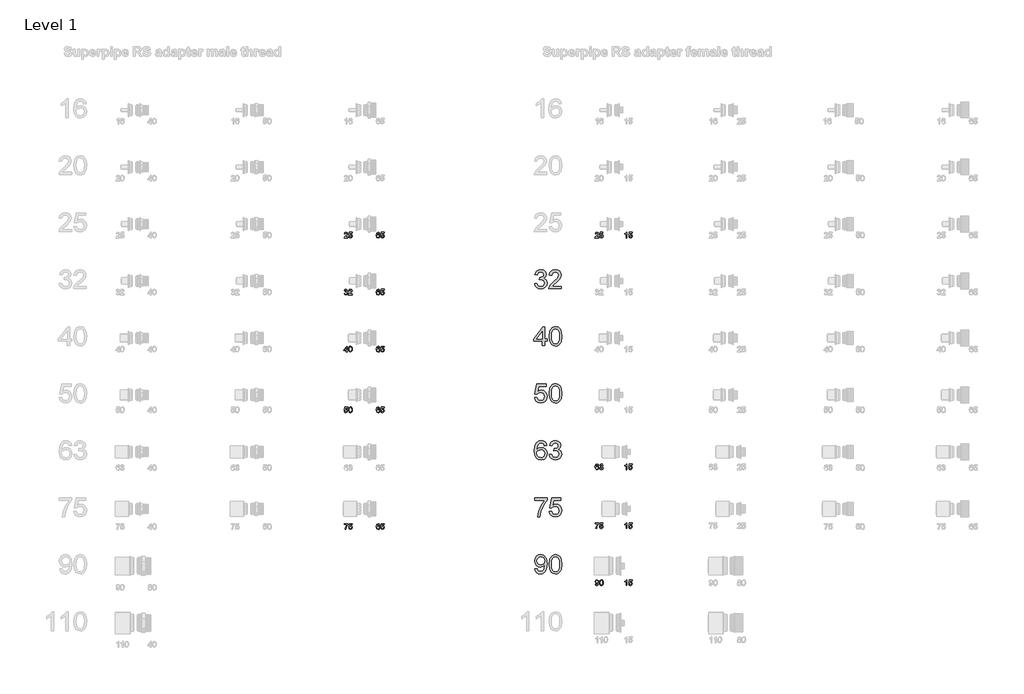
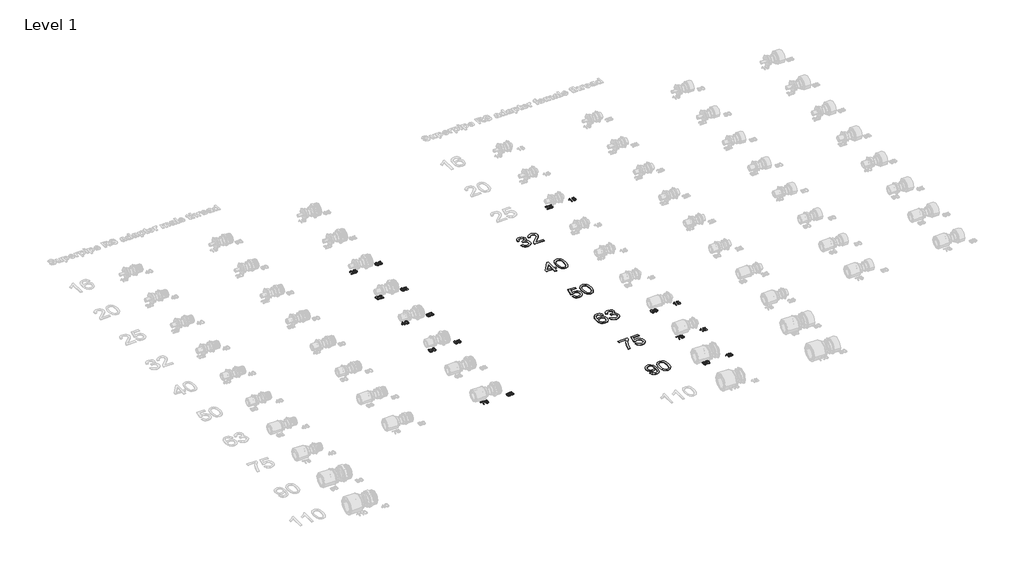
# One storey, part 35 of 58: 24 proxies.
"""IFC4 building model written with IfcOpenShell, lengths in millimetres."""

from ifc_helpers import new_model, si_unit, frame, origin, place, context, project, spatial, polyline, outline, extrude, element, save

model = new_model("IFC4")

# Units and contexts
model_context = context("Model", 3, world=origin())
ifc_project = project(units=[si_unit("LENGTHUNIT", "METRE", prefix="MILLI")], contexts=[model_context])

# Site, building, storey
site = spatial("IfcSite", under=ifc_project)
building = spatial("IfcBuilding", under=site)
storey = spatial("IfcBuildingStorey", under=building, Name="Level 1", Elevation=27.3876384)

# Proxies
placement = place(None, origin())
element("IfcBuildingElementProxy", 1, Name="100mm Arial", ObjectType="100mm Arial", at=placement, inside=storey, context=model_context, shape_type="SweptSolid", body=[
    extrude(outline(polyline([(31284.4814773, 17732.8797554), (31297.0385161, 17734.4493852), (31303.9669603, 17721.2301588), (31316.9286693, 17717.1834569), (31325.537108, 17718.5752771), (31332.1835093, 17722.7507378), (31337.8488921, 17736.5340498), (31332.2325603, 17749.5202843), (31317.9587389, 17754.6583695), (31309.1540964, 17753.2849434), (31310.552048, 17765.8419821), (31312.5631363, 17765.6948293), (31326.8124322, 17769.3000729), (31331.55811, 17773.8740723), (31333.1400025, 17780.3855837), (31328.5537403, 17790.2080329), (31316.7324655, 17794.0953193), (31304.764038, 17790.1712447), (31298.6081459, 17778.3990209), (31286.0511071, 17779.9686507), (31289.7483212, 17791.2442339), (31296.3272775, 17799.6626002), (31305.3281237, 17804.9049186), (31316.2910072, 17806.6523581), (31331.4354826, 17803.2065301), (31342.0304841, 17793.788751), (31345.6970413, 17781.1213477), (31342.2144251, 17769.5453275), (31331.9137292, 17761.2311944), (31345.5989394, 17752.6472812), (31350.4059308, 17736.3133206), (31348.0024351, 17724.0751129), (31340.791948, 17713.8479935), (31329.9087723, 17706.931812), (31316.4872109, 17704.6264181), (31304.347105, 17706.5945868), (31294.4633421, 17712.4990928), (31287.5900802, 17721.5305958), (31284.4814773, 17732.8797554)])), frame((0.0, 0.0, 27.3876384), z_axis=(0.0, 0.0, 1.0), x_axis=(1.0, 0.0, 0.0)), (0.0, 0.0, 1.0), 2.0),
    extrude(outline(polyline([(31425.7481635, 17718.7530867), (31425.7481635, 17706.196048), (31359.8237099, 17706.196048), (31361.1726106, 17714.8535376), (31368.8000306, 17728.1831285), (31384.5208545, 17742.7389928), (31406.2013668, 17763.6592156), (31411.6214948, 17777.8839861), (31406.5079351, 17789.3986925), (31393.1538187, 17794.0953193), (31379.2356165, 17789.5090571), (31373.9503785, 17776.829391), (31361.3933398, 17778.3990209), (31364.4375633, 17790.5452581), (31371.0195853, 17799.4173455), (31380.7960493, 17804.843605), (31393.4235988, 17806.6523581), (31406.1431188, 17804.6412699), (31415.9011887, 17798.6080052), (31422.1091974, 17789.5948963), (31424.1785336, 17778.6442756), (31421.9467162, 17766.7371616), (31414.5277626, 17754.4253775), (31396.538333, 17737.2207629), (31382.0928334, 17725.1419707), (31376.4274506, 17718.7530867), (31425.7481635, 17718.7530867)])), frame((0.0, 0.0, 27.3876384), z_axis=(0.0, 0.0, 1.0), x_axis=(1.0, 0.0, 0.0)), (0.0, 0.0, 1.0), 2.0),
])
element("IfcBuildingElementProxy", 2, Name="100mm Arial", ObjectType="100mm Arial", at=placement, inside=storey, context=model_context, shape_type="SweptSolid", body=[
    extrude(outline(polyline([(31325.2918533, 17406.196048), (31325.2918533, 17429.7404957), (31279.7725878, 17429.7404957), (31279.7725878, 17442.2975344), (31328.431113, 17505.0827283), (31337.8488921, 17505.0827283), (31337.8488921, 17442.2975344), (31350.4059308, 17442.2975344), (31350.4059308, 17429.7404957), (31337.8488921, 17429.7404957), (31337.8488921, 17406.196048), (31325.2918533, 17406.196048)]), holes=[polyline([(31325.2918533, 17442.2975344), (31325.2918533, 17481.0968222), (31295.2236316, 17442.2975344), (31325.2918533, 17442.2975344)])]), frame((0.0, 0.0, 27.3876384), z_axis=(0.0, 0.0, 1.0), x_axis=(1.0, 0.0, 0.0)), (0.0, 0.0, 1.0), 2.0),
    extrude(outline(polyline([(31361.3933398, 17455.6148627), (31365.0844224, 17484.5181247), (31376.0473059, 17501.1831791), (31394.3555665, 17506.6523581), (31409.0217954, 17503.4149966), (31419.150813, 17494.0830566), (31425.0369249, 17479.220624), (31427.3177933, 17455.6148627), (31423.6634988, 17426.8342279), (31412.7374036, 17410.1323853), (31404.5060439, 17406.0029099), (31394.3555665, 17404.6264181), (31381.3080184, 17407.0176511), (31371.39973, 17414.19135), (31363.8949373, 17431.1813668), (31361.3933398, 17455.6148627)]), holes=[polyline([(31373.9503785, 17455.6393881), (31375.4219065, 17435.8871907), (31379.8364905, 17424.4552577), (31386.4093154, 17419.0014071), (31394.3555665, 17417.1834569), (31402.3018176, 17419.0075385), (31408.8746426, 17424.4797831), (31413.2892265, 17435.9178475), (31414.7607545, 17455.6393881), (31413.3382775, 17474.9470615), (31409.0708463, 17486.4678993), (31402.5102841, 17492.1884643), (31394.2084137, 17494.0953193), (31386.3480018, 17492.4153249), (31380.0326942, 17487.3753416), (31375.4709574, 17475.1371339), (31373.9503785, 17455.6393881)])]), frame((0.0, 0.0, 27.3876384), z_axis=(0.0, 0.0, 1.0), x_axis=(1.0, 0.0, 0.0)), (0.0, 0.0, 1.0), 2.0),
])
element("IfcBuildingElementProxy", 3, Name="100mm Arial", ObjectType="100mm Arial", at=placement, inside=storey, context=model_context, shape_type="SweptSolid", body=[
    extrude(outline(polyline([(31284.4814773, 17132.8797554), (31297.0385161, 17134.4493852), (31303.3660864, 17121.5122017), (31316.4872109, 17117.1834569), (31325.488057, 17118.6887074), (31332.2325603, 17123.2044589), (31336.4448091, 17130.2095452), (31337.8488921, 17139.1828002), (31332.5881795, 17154.0942837), (31325.981632, 17158.196168), (31316.6834146, 17159.5634627), (31305.6592175, 17157.3806962), (31298.6081459, 17151.7153135), (31286.0511071, 17153.2849434), (31297.0385161, 17205.0827283), (31345.6970413, 17205.0827283), (31345.6970413, 17192.5256895), (31307.1920591, 17192.5256895), (31301.820982, 17164.8609635), (31310.7911713, 17170.305617), (31320.1905563, 17172.1205015), (31331.9229263, 17169.87029), (31341.6626021, 17163.1196554), (31348.2200987, 17152.8312222), (31350.4059308, 17139.9676151), (31348.4377622, 17127.4105764), (31342.5332561, 17116.6684221), (31331.2270162, 17107.6369191), (31316.43816, 17104.6264181), (31304.1049161, 17106.5608643), (31294.2794011, 17112.3642028), (31287.5440949, 17121.3619832), (31284.4814773, 17132.8797554)])), frame((0.0, 0.0, 27.3876384), z_axis=(0.0, 0.0, 1.0), x_axis=(1.0, 0.0, 0.0)), (0.0, 0.0, 1.0), 2.0),
    extrude(outline(polyline([(31361.3933398, 17155.6148627), (31365.0844224, 17184.5181247), (31376.0473059, 17201.1831791), (31394.3555665, 17206.6523581), (31409.0217954, 17203.4149966), (31419.150813, 17194.0830566), (31425.0369249, 17179.220624), (31427.3177933, 17155.6148627), (31423.6634988, 17126.8342279), (31412.7374036, 17110.1323853), (31404.5060439, 17106.0029099), (31394.3555665, 17104.6264181), (31381.3080184, 17107.0176511), (31371.39973, 17114.19135), (31363.8949373, 17131.1813668), (31361.3933398, 17155.6148627)]), holes=[polyline([(31373.9503785, 17155.6393881), (31375.4219065, 17135.8871907), (31379.8364905, 17124.4552577), (31386.4093154, 17119.0014071), (31394.3555665, 17117.1834569), (31402.3018176, 17119.0075385), (31408.8746426, 17124.4797831), (31413.2892265, 17135.9178475), (31414.7607545, 17155.6393881), (31413.3382775, 17174.9470615), (31409.0708463, 17186.4678993), (31402.5102841, 17192.1884643), (31394.2084137, 17194.0953193), (31386.3480018, 17192.4153249), (31380.0326942, 17187.3753416), (31375.4709574, 17175.1371339), (31373.9503785, 17155.6393881)])]), frame((0.0, 0.0, 27.3876384), z_axis=(0.0, 0.0, 1.0), x_axis=(1.0, 0.0, 0.0)), (0.0, 0.0, 1.0), 2.0),
])
element("IfcBuildingElementProxy", 4, Name="100mm Arial", ObjectType="100mm Arial", at=placement, inside=storey, context=model_context, shape_type="SweptSolid", body=[
    extrude(outline(polyline([(31348.836301, 16879.9686507), (31336.2792622, 16878.3990209), (31331.5213218, 16888.871395), (31318.9397575, 16894.0953193), (31307.6089921, 16891.0541615), (31299.0373416, 16879.6375569), (31295.4688862, 16857.2580689), (31306.5421343, 16867.2767219), (31320.2641327, 16870.5508717), (31331.8646783, 16868.3129229), (31341.6012884, 16861.5990764), (31348.2047702, 16851.3413001), (31350.4059308, 16838.4715617), (31346.261127, 16821.1443197), (31334.8567852, 16808.8815865), (31318.4001973, 16804.6264181), (31304.153967, 16807.4468468), (31292.8078731, 16815.9081326), (31285.3858539, 16830.8441416), (31282.9118475, 16853.0887396), (31285.6586997, 16878.0985839), (31293.8992564, 16895.1989653), (31305.1503141, 16903.7890099), (31319.7245724, 16906.6523581), (31330.7426382, 16904.8803932), (31339.5656747, 16899.5644983), (31345.7460922, 16891.1216066), (31348.836301, 16879.9686507)]), holes=[polyline([(31295.4688862, 16838.6677654), (31298.375154, 16827.7907211), (31306.1006759, 16819.8935209), (31317.4191786, 16817.1834569), (31325.7057205, 16818.5875398), (31332.2202975, 16822.7997887), (31336.4417434, 16829.4216646), (31337.8488921, 16838.0546288), (31336.4601375, 16846.3411707), (31332.2938739, 16852.659544), (31325.6689323, 16856.6602607), (31316.9041438, 16857.9938329), (31301.7106174, 16852.659544), (31297.029319, 16846.4944549), (31295.4688862, 16838.6677654)])]), frame((0.0, 0.0, 27.3876384), z_axis=(0.0, 0.0, 1.0), x_axis=(1.0, 0.0, 0.0)), (0.0, 0.0, 1.0), 2.0),
    extrude(outline(polyline([(31361.3933398, 16832.8797554), (31373.9503785, 16834.4493852), (31380.8788228, 16821.2301588), (31393.8405317, 16817.1834569), (31402.4489704, 16818.5752771), (31409.0953718, 16822.7507378), (31414.7607545, 16836.5340498), (31409.1444227, 16849.5202843), (31394.8706013, 16854.6583695), (31386.0659589, 16853.2849434), (31387.4639105, 16865.8419821), (31389.4749987, 16865.6948293), (31403.7242947, 16869.3000729), (31408.4699724, 16873.8740723), (31410.051865, 16880.3855837), (31405.4656028, 16890.2080329), (31393.644328, 16894.0953193), (31381.6759004, 16890.1712447), (31375.5200084, 16878.3990209), (31362.9629696, 16879.9686507), (31366.6601837, 16891.2442339), (31373.23914, 16899.6626002), (31382.2399862, 16904.9049186), (31393.2028696, 16906.6523581), (31408.3473451, 16903.2065301), (31418.9423465, 16893.788751), (31422.6089038, 16881.1213477), (31419.1262875, 16869.5453275), (31408.8255917, 16861.2311944), (31422.5108019, 16852.6472812), (31427.3177933, 16836.3133206), (31424.9142976, 16824.0751129), (31417.7038105, 16813.8479935), (31406.8206348, 16806.931812), (31393.3990733, 16804.6264181), (31381.2589675, 16806.5945868), (31371.3752046, 16812.4990928), (31364.5019426, 16821.5305958), (31361.3933398, 16832.8797554)])), frame((0.0, 0.0, 27.3876384), z_axis=(0.0, 0.0, 1.0), x_axis=(1.0, 0.0, 0.0)), (0.0, 0.0, 1.0), 2.0),
])
element("IfcBuildingElementProxy", 5, Name="100mm Arial", ObjectType="100mm Arial", at=placement, inside=storey, context=model_context, shape_type="SweptSolid", body=[
    extrude(outline(polyline([(31284.4814773, 16592.5256895), (31284.4814773, 16605.0827283), (31350.4059308, 16605.0827283), (31350.4059308, 16594.9291852), (31331.7052628, 16567.914384), (31317.3946531, 16533.492892), (31312.7348145, 16506.196048), (31300.1777758, 16506.196048), (31305.1687082, 16534.5229616), (31318.8661811, 16566.5409579), (31337.8488921, 16592.5256895), (31284.4814773, 16592.5256895)])), frame((0.0, 0.0, 27.3876384), z_axis=(0.0, 0.0, 1.0), x_axis=(1.0, 0.0, 0.0)), (0.0, 0.0, 1.0), 2.0),
    extrude(outline(polyline([(31361.3933398, 16532.8797554), (31373.9503785, 16534.4493852), (31380.2779488, 16521.5122017), (31393.3990733, 16517.1834569), (31402.3999195, 16518.6887074), (31409.1444227, 16523.2044589), (31413.3566716, 16530.2095452), (31414.7607545, 16539.1828002), (31409.500042, 16554.0942837), (31402.8934945, 16558.196168), (31393.5952771, 16559.5634627), (31382.57108, 16557.3806962), (31375.5200084, 16551.7153135), (31362.9629696, 16553.2849434), (31373.9503785, 16605.0827283), (31422.6089038, 16605.0827283), (31422.6089038, 16592.5256895), (31384.1039216, 16592.5256895), (31378.7328445, 16564.8609635), (31387.7030338, 16570.305617), (31397.1024188, 16572.1205015), (31408.8347887, 16569.87029), (31418.5744645, 16563.1196554), (31425.1319611, 16552.8312222), (31427.3177933, 16539.9676151), (31425.3496246, 16527.4105764), (31419.4451186, 16516.6684221), (31408.1388786, 16507.6369191), (31393.3500224, 16504.6264181), (31381.0167785, 16506.5608643), (31371.1912636, 16512.3642028), (31364.4559574, 16521.3619832), (31361.3933398, 16532.8797554)])), frame((0.0, 0.0, 27.3876384), z_axis=(0.0, 0.0, 1.0), x_axis=(1.0, 0.0, 0.0)), (0.0, 0.0, 1.0), 2.0),
])
element("IfcBuildingElementProxy", 6, Name="100mm Arial", ObjectType="100mm Arial", at=placement, inside=storey, context=model_context, shape_type="SweptSolid", body=[
    extrude(outline(polyline([(31286.0511071, 16231.3101255), (31298.6081459, 16232.8797554), (31304.2490032, 16220.899065), (31314.9421065, 16217.1834569), (31325.1079123, 16219.5746899), (31331.9995683, 16225.9635738), (31336.107584, 16236.8774064), (31337.9224685, 16251.4455334), (31337.8488921, 16253.89808), (31327.8057136, 16244.3821991), (31314.0346642, 16240.7279046), (31302.5843371, 16242.959722), (31293.0531278, 16249.6551743), (31286.6243899, 16259.9987898), (31284.4814773, 16273.1750966), (31286.7286232, 16286.7867304), (31293.4700607, 16297.4553082), (31303.5960126, 16304.3530956), (31315.9967016, 16306.6523581), (31333.8880293, 16301.4039083), (31346.1998134, 16286.4433738), (31350.4059308, 16258.3371894), (31346.2120761, 16227.839772), (31340.9973488, 16217.8487102), (31333.7408765, 16210.561581), (31324.7553587, 16206.1102088), (31314.3534953, 16204.6264181), (31303.6174724, 16206.3769233), (31295.0519533, 16211.6284388), (31289.0616081, 16220.0498708), (31286.0511071, 16231.3101255)]), holes=[polyline([(31337.8488921, 16273.4694022), (31336.4938601, 16281.979739), (31332.428764, 16288.5280385), (31326.1195878, 16292.7034991), (31318.0323153, 16294.0953193), (31309.6446058, 16292.5962002), (31302.924628, 16288.0988428), (31298.5100441, 16281.2163838), (31297.0385161, 16272.5619599), (31298.4303363, 16264.8027155), (31302.6057969, 16258.6437577), (31309.1602278, 16254.624647), (31317.6889587, 16253.2849434), (31332.1712466, 16258.6437577), (31336.4294807, 16265.029576), (31337.8488921, 16273.4694022)])]), frame((0.0, 0.0, 27.3876384), z_axis=(0.0, 0.0, 1.0), x_axis=(1.0, 0.0, 0.0)), (0.0, 0.0, 1.0), 2.0),
    extrude(outline(polyline([(31361.3933398, 16255.6148627), (31365.0844224, 16284.5181247), (31376.0473059, 16301.1831791), (31394.3555665, 16306.6523581), (31409.0217954, 16303.4149966), (31419.150813, 16294.0830566), (31425.0369249, 16279.220624), (31427.3177933, 16255.6148627), (31423.6634988, 16226.8342279), (31412.7374036, 16210.1323853), (31404.5060439, 16206.0029099), (31394.3555665, 16204.6264181), (31381.3080184, 16207.0176511), (31371.39973, 16214.19135), (31363.8949373, 16231.1813668), (31361.3933398, 16255.6148627)]), holes=[polyline([(31373.9503785, 16255.6393881), (31375.4219065, 16235.8871907), (31379.8364905, 16224.4552577), (31386.4093154, 16219.0014071), (31394.3555665, 16217.1834569), (31402.3018176, 16219.0075385), (31408.8746426, 16224.4797831), (31413.2892265, 16235.9178475), (31414.7607545, 16255.6393881), (31413.3382775, 16274.9470615), (31409.0708463, 16286.4678993), (31402.5102841, 16292.1884643), (31394.2084137, 16294.0953193), (31386.3480018, 16292.4153249), (31380.0326942, 16287.3753416), (31375.4709574, 16275.1371339), (31373.9503785, 16255.6393881)])]), frame((0.0, 0.0, 27.3876384), z_axis=(0.0, 0.0, 1.0), x_axis=(1.0, 0.0, 0.0)), (0.0, 0.0, 1.0), 2.0),
])
element("IfcBuildingElementProxy", 7, Name="30mm Arial", ObjectType="30mm Arial", at=placement, inside=storey, context=model_context, shape_type="SweptSolid", body=[
    extrude(outline(polyline([(30301.8418771, 17977.3459656), (30301.8418771, 17973.5788539), (30282.0645411, 17973.5788539), (30282.4692113, 17976.1761008), (30284.7574373, 17980.1749781), (30289.4736845, 17984.5417374), (30295.9778381, 17990.8178042), (30297.6038765, 17995.0852354), (30296.0698086, 17998.5396473), (30292.0635737, 17999.9486353), (30287.8881131, 17998.5727567), (30286.3025417, 17994.7688569), (30282.53543, 17995.2397458), (30285.4233037, 18001.5452432), (30292.1445077, 18003.715747), (30298.8877847, 18001.3024411), (30301.3709882, 17995.3133222), (30300.7014429, 17991.741188), (30298.4757569, 17988.0476528), (30293.078928, 17982.8862684), (30288.7452781, 17979.2626308), (30287.0456633, 17977.3459656), (30301.8418771, 17977.3459656)])), frame((0.0, 0.0, 27.3876384), z_axis=(0.0, 0.0, 1.0), x_axis=(1.0, 0.0, 0.0)), (0.0, 0.0, 1.0), 2.0),
    extrude(outline(polyline([(30305.6089888, 17981.5839661), (30309.3761004, 17982.0548551), (30311.2743715, 17978.1737001), (30315.2107088, 17976.8750766), (30319.9343137, 17978.6813772), (30321.6192132, 17983.4748796), (30320.0409994, 17987.9483247), (30315.26957, 17989.5890784), (30311.9623108, 17988.9342484), (30309.8469893, 17987.2346336), (30306.0798777, 17987.7055225), (30309.3761004, 18003.244858), (30323.973658, 18003.244858), (30323.973658, 17999.4777464), (30312.4221633, 17999.4777464), (30310.8108402, 17991.1783286), (30316.3217125, 17993.35619), (30322.7633262, 17990.6559361), (30325.3863248, 17983.7103241), (30323.0245224, 17976.7205662), (30315.1959936, 17973.107965), (30308.5483659, 17975.4293004), (30305.6089888, 17981.5839661)])), frame((0.0, 0.0, 27.3876384), z_axis=(0.0, 0.0, 1.0), x_axis=(1.0, 0.0, 0.0)), (0.0, 0.0, 1.0), 2.0),
])
element("IfcBuildingElementProxy", 8, Name="30mm Arial", ObjectType="30mm Arial", at=placement, inside=storey, context=model_context, shape_type="SweptSolid", body=[
    extrude(outline(polyline([(30470.5918771, 17995.7106348), (30466.8247655, 17995.2397458), (30465.3973834, 17998.381458), (30461.6229141, 17999.9486353), (30458.2236845, 17999.036288), (30455.6521893, 17995.6113066), (30454.5816527, 17988.8974602), (30457.9036271, 17991.9030561), (30462.0202266, 17992.885301), (30468.4213734, 17990.1997625), (30471.0627661, 17983.261508), (30469.8193249, 17978.0633355), (30466.3980224, 17974.3845155), (30461.461046, 17973.107965), (30453.7833488, 17976.4924793), (30450.8145411, 17987.6466614), (30454.1107637, 18000.2797291), (30461.8583586, 18003.715747), (30467.8106892, 18001.589389), (30470.5918771, 17995.7106348)]), holes=[polyline([(30454.5816527, 17983.3203692), (30455.453533, 17980.0572559), (30457.7711896, 17977.6880958), (30461.1667404, 17976.8750766), (30465.6070761, 17978.5599761), (30467.2956545, 17983.1364282), (30465.629149, 17987.5179027), (30461.01223, 17989.1181894), (30456.4541721, 17987.5179027), (30454.5816527, 17983.3203692)])]), frame((0.0, 0.0, 27.3876384), z_axis=(0.0, 0.0, 1.0), x_axis=(1.0, 0.0, 0.0)), (0.0, 0.0, 1.0), 2.0),
    extrude(outline(polyline([(30474.3589888, 17981.5839661), (30478.1261004, 17982.0548551), (30480.0243715, 17978.1737001), (30483.9607088, 17976.8750766), (30488.6843137, 17978.6813772), (30490.3692132, 17983.4748796), (30488.7909994, 17987.9483247), (30484.01957, 17989.5890784), (30480.7123108, 17988.9342484), (30478.5969893, 17987.2346336), (30474.8298777, 17987.7055225), (30478.1261004, 18003.244858), (30492.723658, 18003.244858), (30492.723658, 17999.4777464), (30481.1721633, 17999.4777464), (30479.5608402, 17991.1783286), (30485.0717125, 17993.35619), (30491.5133262, 17990.6559361), (30494.1363248, 17983.7103241), (30491.7745224, 17976.7205662), (30483.9459936, 17973.107965), (30477.2983659, 17975.4293004), (30474.3589888, 17981.5839661)])), frame((0.0, 0.0, 27.3876384), z_axis=(0.0, 0.0, 1.0), x_axis=(1.0, 0.0, 0.0)), (0.0, 0.0, 1.0), 2.0),
])
element("IfcBuildingElementProxy", 9, Name="30mm Arial", ObjectType="30mm Arial", at=placement, inside=storey, context=model_context, shape_type="SweptSolid", body=[
    extrude(outline(polyline([(30282.53543, 17681.5839661), (30286.3025417, 17682.0548551), (30288.3810749, 17678.0890872), (30292.2695876, 17676.8750766), (30296.8460396, 17678.5452609), (30298.5456545, 17682.6802545), (30296.8607549, 17686.5761248), (30292.5786085, 17688.1175504), (30289.9372158, 17687.7055225), (30290.3566012, 17691.4726342), (30295.2347165, 17692.5100614), (30297.1329876, 17695.8357146), (30295.7571089, 17698.7824494), (30292.2107265, 17699.9486353), (30288.6201982, 17698.771413), (30286.7734306, 17695.2397458), (30283.006319, 17695.7106348), (30286.0891701, 17701.6188196), (30292.078289, 17703.715747), (30296.6216316, 17702.6819986), (30299.8001321, 17699.8566648), (30300.9000992, 17696.0564438), (30299.8553144, 17692.5836378), (30296.7651056, 17690.0893979), (30300.8706687, 17687.5142239), (30302.3127661, 17682.6140357), (30299.4285712, 17675.8744376), (30292.1371501, 17673.107965), (30285.5299895, 17675.4697674), (30282.53543, 17681.5839661)])), frame((0.0, 0.0, 27.3876384), z_axis=(0.0, 0.0, 1.0), x_axis=(1.0, 0.0, 0.0)), (0.0, 0.0, 1.0), 2.0),
    extrude(outline(polyline([(30324.9154359, 17677.3459656), (30324.9154359, 17673.5788539), (30305.1380998, 17673.5788539), (30305.54277, 17676.1761008), (30307.830996, 17680.1749781), (30312.5472432, 17684.5417374), (30319.0513969, 17690.8178042), (30320.6774353, 17695.0852354), (30319.1433674, 17698.5396473), (30315.1371324, 17699.9486353), (30310.9616718, 17698.5727567), (30309.3761004, 17694.7688569), (30305.6089888, 17695.2397458), (30308.4968624, 17701.5452432), (30315.2180665, 17703.715747), (30321.9613434, 17701.3024411), (30324.4445469, 17695.3133222), (30323.7750017, 17691.741188), (30321.5493156, 17688.0476528), (30316.1524867, 17682.8862684), (30311.8188368, 17679.2626308), (30310.119222, 17677.3459656), (30324.9154359, 17677.3459656)])), frame((0.0, 0.0, 27.3876384), z_axis=(0.0, 0.0, 1.0), x_axis=(1.0, 0.0, 0.0)), (0.0, 0.0, 1.0), 2.0),
])
element("IfcBuildingElementProxy", 10, Name="30mm Arial", ObjectType="30mm Arial", at=placement, inside=storey, context=model_context, shape_type="SweptSolid", body=[
    extrude(outline(polyline([(30470.5918771, 17695.7106348), (30466.8247655, 17695.2397458), (30465.3973834, 17698.381458), (30461.6229141, 17699.9486353), (30458.2236845, 17699.036288), (30455.6521893, 17695.6113066), (30454.5816527, 17688.8974602), (30457.9036271, 17691.9030561), (30462.0202266, 17692.885301), (30468.4213734, 17690.1997625), (30471.0627661, 17683.261508), (30469.8193249, 17678.0633355), (30466.3980224, 17674.3845155), (30461.461046, 17673.107965), (30453.7833488, 17676.4924793), (30450.8145411, 17687.6466614), (30454.1107637, 17700.2797291), (30461.8583586, 17703.715747), (30467.8106892, 17701.589389), (30470.5918771, 17695.7106348)]), holes=[polyline([(30454.5816527, 17683.3203692), (30455.453533, 17680.0572559), (30457.7711896, 17677.6880958), (30461.1667404, 17676.8750766), (30465.6070761, 17678.5599761), (30467.2956545, 17683.1364282), (30465.629149, 17687.5179027), (30461.01223, 17689.1181894), (30456.4541721, 17687.5179027), (30454.5816527, 17683.3203692)])]), frame((0.0, 0.0, 27.3876384), z_axis=(0.0, 0.0, 1.0), x_axis=(1.0, 0.0, 0.0)), (0.0, 0.0, 1.0), 2.0),
    extrude(outline(polyline([(30474.3589888, 17681.5839661), (30478.1261004, 17682.0548551), (30480.0243715, 17678.1737001), (30483.9607088, 17676.8750766), (30488.6843137, 17678.6813772), (30490.3692132, 17683.4748796), (30488.7909994, 17687.9483247), (30484.01957, 17689.5890784), (30480.7123108, 17688.9342484), (30478.5969893, 17687.2346336), (30474.8298777, 17687.7055225), (30478.1261004, 17703.244858), (30492.723658, 17703.244858), (30492.723658, 17699.4777464), (30481.1721633, 17699.4777464), (30479.5608402, 17691.1783286), (30485.0717125, 17693.35619), (30491.5133262, 17690.6559361), (30494.1363248, 17683.7103241), (30491.7745224, 17676.7205662), (30483.9459936, 17673.107965), (30477.2983659, 17675.4293004), (30474.3589888, 17681.5839661)])), frame((0.0, 0.0, 27.3876384), z_axis=(0.0, 0.0, 1.0), x_axis=(1.0, 0.0, 0.0)), (0.0, 0.0, 1.0), 2.0),
])
element("IfcBuildingElementProxy", 11, Name="30mm Arial", ObjectType="30mm Arial", at=placement, inside=storey, context=model_context, shape_type="SweptSolid", body=[
    extrude(outline(polyline([(30294.7785428, 17373.5788539), (30294.7785428, 17380.6421882), (30281.1227632, 17380.6421882), (30281.1227632, 17384.4092999), (30295.7203207, 17403.244858), (30298.5456545, 17403.244858), (30298.5456545, 17384.4092999), (30302.3127661, 17384.4092999), (30302.3127661, 17380.6421882), (30298.5456545, 17380.6421882), (30298.5456545, 17373.5788539), (30294.7785428, 17373.5788539)]), holes=[polyline([(30294.7785428, 17384.4092999), (30294.7785428, 17396.0490862), (30285.7580763, 17384.4092999), (30294.7785428, 17384.4092999)])]), frame((0.0, 0.0, 27.3876384), z_axis=(0.0, 0.0, 1.0), x_axis=(1.0, 0.0, 0.0)), (0.0, 0.0, 1.0), 2.0),
    extrude(outline(polyline([(30305.6089888, 17388.4044983), (30306.7163136, 17397.075477), (30310.0051786, 17402.0749933), (30315.4976568, 17403.715747), (30319.8975255, 17402.7445385), (30322.9362307, 17399.9449565), (30324.7020643, 17395.4862267), (30325.3863248, 17388.4044983), (30324.2900365, 17379.7703079), (30321.0122079, 17374.7597551), (30315.4976568, 17373.107965), (30308.6109058, 17375.9774445), (30305.6089888, 17388.4044983)]), holes=[polyline([(30309.3761004, 17388.411856), (30311.141934, 17379.0566168), (30315.4976568, 17376.8750766), (30319.8533796, 17379.0639745), (30321.6192132, 17388.411856), (30319.9122407, 17397.6604093), (30315.453511, 17399.9486353), (30311.2007951, 17397.932642), (30309.3761004, 17388.411856)])]), frame((0.0, 0.0, 27.3876384), z_axis=(0.0, 0.0, 1.0), x_axis=(1.0, 0.0, 0.0)), (0.0, 0.0, 1.0), 2.0),
])
element("IfcBuildingElementProxy", 12, Name="30mm Arial", ObjectType="30mm Arial", at=placement, inside=storey, context=model_context, shape_type="SweptSolid", body=[
    extrude(outline(polyline([(30470.5918771, 17395.7106348), (30466.8247655, 17395.2397458), (30465.3973834, 17398.381458), (30461.6229141, 17399.9486353), (30458.2236845, 17399.036288), (30455.6521893, 17395.6113066), (30454.5816527, 17388.8974602), (30457.9036271, 17391.9030561), (30462.0202266, 17392.885301), (30468.4213734, 17390.1997625), (30471.0627661, 17383.261508), (30469.8193249, 17378.0633355), (30466.3980224, 17374.3845155), (30461.461046, 17373.107965), (30453.7833488, 17376.4924793), (30450.8145411, 17387.6466614), (30454.1107637, 17400.2797291), (30461.8583586, 17403.715747), (30467.8106892, 17401.589389), (30470.5918771, 17395.7106348)]), holes=[polyline([(30454.5816527, 17383.3203692), (30455.453533, 17380.0572559), (30457.7711896, 17377.6880958), (30461.1667404, 17376.8750766), (30465.6070761, 17378.5599761), (30467.2956545, 17383.1364282), (30465.629149, 17387.5179027), (30461.01223, 17389.1181894), (30456.4541721, 17387.5179027), (30454.5816527, 17383.3203692)])]), frame((0.0, 0.0, 27.3876384), z_axis=(0.0, 0.0, 1.0), x_axis=(1.0, 0.0, 0.0)), (0.0, 0.0, 1.0), 2.0),
    extrude(outline(polyline([(30474.3589888, 17381.5839661), (30478.1261004, 17382.0548551), (30480.0243715, 17378.1737001), (30483.9607088, 17376.8750766), (30488.6843137, 17378.6813772), (30490.3692132, 17383.4748796), (30488.7909994, 17387.9483247), (30484.01957, 17389.5890784), (30480.7123108, 17388.9342484), (30478.5969893, 17387.2346336), (30474.8298777, 17387.7055225), (30478.1261004, 17403.244858), (30492.723658, 17403.244858), (30492.723658, 17399.4777464), (30481.1721633, 17399.4777464), (30479.5608402, 17391.1783286), (30485.0717125, 17393.35619), (30491.5133262, 17390.6559361), (30494.1363248, 17383.7103241), (30491.7745224, 17376.7205662), (30483.9459936, 17373.107965), (30477.2983659, 17375.4293004), (30474.3589888, 17381.5839661)])), frame((0.0, 0.0, 27.3876384), z_axis=(0.0, 0.0, 1.0), x_axis=(1.0, 0.0, 0.0)), (0.0, 0.0, 1.0), 2.0),
])
element("IfcBuildingElementProxy", 13, Name="30mm Arial", ObjectType="30mm Arial", at=placement, inside=storey, context=model_context, shape_type="SweptSolid", body=[
    extrude(outline(polyline([(30282.53543, 17061.5839661), (30286.3025417, 17062.0548551), (30288.2008127, 17058.1737001), (30292.1371501, 17056.8750766), (30296.8607549, 17058.6813772), (30298.5456545, 17063.4748796), (30296.9674407, 17067.9483247), (30292.1960112, 17069.5890784), (30288.8887521, 17068.9342484), (30286.7734306, 17067.2346336), (30283.006319, 17067.7055225), (30286.3025417, 17083.244858), (30300.9000992, 17083.244858), (30300.9000992, 17079.4777464), (30289.3486046, 17079.4777464), (30287.7372814, 17071.1783286), (30293.2481537, 17073.35619), (30299.6897675, 17070.6559361), (30302.3127661, 17063.7103241), (30299.9509637, 17056.7205662), (30292.1224348, 17053.107965), (30285.4748072, 17055.4293004), (30282.53543, 17061.5839661)])), frame((0.0, 0.0, 27.3876384), z_axis=(0.0, 0.0, 1.0), x_axis=(1.0, 0.0, 0.0)), (0.0, 0.0, 1.0), 2.0),
    extrude(outline(polyline([(30305.6089888, 17068.4044983), (30306.7163136, 17077.075477), (30310.0051786, 17082.0749933), (30315.4976568, 17083.715747), (30319.8975255, 17082.7445385), (30322.9362307, 17079.9449565), (30324.7020643, 17075.4862267), (30325.3863248, 17068.4044983), (30324.2900365, 17059.7703079), (30321.0122079, 17054.7597551), (30315.4976568, 17053.107965), (30308.6109058, 17055.9774445), (30305.6089888, 17068.4044983)]), holes=[polyline([(30309.3761004, 17068.411856), (30311.141934, 17059.0566168), (30315.4976568, 17056.8750766), (30319.8533796, 17059.0639745), (30321.6192132, 17068.411856), (30319.9122407, 17077.6604093), (30315.453511, 17079.9486353), (30311.2007951, 17077.932642), (30309.3761004, 17068.411856)])]), frame((0.0, 0.0, 27.3876384), z_axis=(0.0, 0.0, 1.0), x_axis=(1.0, 0.0, 0.0)), (0.0, 0.0, 1.0), 2.0),
])
element("IfcBuildingElementProxy", 14, Name="30mm Arial", ObjectType="30mm Arial", at=placement, inside=storey, context=model_context, shape_type="SweptSolid", body=[
    extrude(outline(polyline([(30470.5918771, 17075.7106348), (30466.8247655, 17075.2397458), (30465.3973834, 17078.381458), (30461.6229141, 17079.9486353), (30458.2236845, 17079.036288), (30455.6521893, 17075.6113066), (30454.5816527, 17068.8974602), (30457.9036271, 17071.9030561), (30462.0202266, 17072.885301), (30468.4213734, 17070.1997625), (30471.0627661, 17063.261508), (30469.8193249, 17058.0633355), (30466.3980224, 17054.3845155), (30461.461046, 17053.107965), (30453.7833488, 17056.4924793), (30450.8145411, 17067.6466614), (30454.1107637, 17080.2797291), (30461.8583586, 17083.715747), (30467.8106892, 17081.589389), (30470.5918771, 17075.7106348)]), holes=[polyline([(30454.5816527, 17063.3203692), (30455.453533, 17060.0572559), (30457.7711896, 17057.6880958), (30461.1667404, 17056.8750766), (30465.6070761, 17058.5599761), (30467.2956545, 17063.1364282), (30465.629149, 17067.5179027), (30461.01223, 17069.1181894), (30456.4541721, 17067.5179027), (30454.5816527, 17063.3203692)])]), frame((0.0, 0.0, 27.3876384), z_axis=(0.0, 0.0, 1.0), x_axis=(1.0, 0.0, 0.0)), (0.0, 0.0, 1.0), 2.0),
    extrude(outline(polyline([(30474.3589888, 17061.5839661), (30478.1261004, 17062.0548551), (30480.0243715, 17058.1737001), (30483.9607088, 17056.8750766), (30488.6843137, 17058.6813772), (30490.3692132, 17063.4748796), (30488.7909994, 17067.9483247), (30484.01957, 17069.5890784), (30480.7123108, 17068.9342484), (30478.5969893, 17067.2346336), (30474.8298777, 17067.7055225), (30478.1261004, 17083.244858), (30492.723658, 17083.244858), (30492.723658, 17079.4777464), (30481.1721633, 17079.4777464), (30479.5608402, 17071.1783286), (30485.0717125, 17073.35619), (30491.5133262, 17070.6559361), (30494.1363248, 17063.7103241), (30491.7745224, 17056.7205662), (30483.9459936, 17053.107965), (30477.2983659, 17055.4293004), (30474.3589888, 17061.5839661)])), frame((0.0, 0.0, 27.3876384), z_axis=(0.0, 0.0, 1.0), x_axis=(1.0, 0.0, 0.0)), (0.0, 0.0, 1.0), 2.0),
])
element("IfcBuildingElementProxy", 15, Name="30mm Arial", ObjectType="30mm Arial", at=placement, inside=storey, context=model_context, shape_type="SweptSolid", body=[
    extrude(outline(polyline([(30282.53543, 16465.3277464), (30282.53543, 16469.094858), (30302.3127661, 16469.094858), (30302.3127661, 16466.0487951), (30296.7025657, 16457.9443547), (30292.4093828, 16447.6179071), (30291.0114312, 16439.4288539), (30287.2443196, 16439.4288539), (30288.7415993, 16447.926928), (30292.8508412, 16457.5323269), (30298.5456545, 16465.3277464), (30282.53543, 16465.3277464)])), frame((0.0, 0.0, 27.3876384), z_axis=(0.0, 0.0, 1.0), x_axis=(1.0, 0.0, 0.0)), (0.0, 0.0, 1.0), 2.0),
    extrude(outline(polyline([(30305.6089888, 16447.4339661), (30309.3761004, 16447.9048551), (30311.2743715, 16444.0237001), (30315.2107088, 16442.7250766), (30319.9343137, 16444.5313772), (30321.6192132, 16449.3248796), (30320.0409994, 16453.7983247), (30315.26957, 16455.4390784), (30311.9623108, 16454.7842484), (30309.8469893, 16453.0846336), (30306.0798777, 16453.5555225), (30309.3761004, 16469.094858), (30323.973658, 16469.094858), (30323.973658, 16465.3277464), (30312.4221633, 16465.3277464), (30310.8108402, 16457.0283286), (30316.3217125, 16459.20619), (30322.7633262, 16456.5059361), (30325.3863248, 16449.5603241), (30323.0245224, 16442.5705662), (30315.1959936, 16438.957965), (30308.5483659, 16441.2793004), (30305.6089888, 16447.4339661)])), frame((0.0, 0.0, 27.3876384), z_axis=(0.0, 0.0, 1.0), x_axis=(1.0, 0.0, 0.0)), (0.0, 0.0, 1.0), 2.0),
])
element("IfcBuildingElementProxy", 16, Name="30mm Arial", ObjectType="30mm Arial", at=placement, inside=storey, context=model_context, shape_type="SweptSolid", body=[
    extrude(outline(polyline([(30470.5918771, 16461.5606348), (30466.8247655, 16461.0897458), (30465.3973834, 16464.231458), (30461.6229141, 16465.7986353), (30458.2236845, 16464.886288), (30455.6521893, 16461.4613066), (30454.5816527, 16454.7474602), (30457.9036271, 16457.7530561), (30462.0202266, 16458.735301), (30468.4213734, 16456.0497625), (30471.0627661, 16449.111508), (30469.8193249, 16443.9133355), (30466.3980224, 16440.2345155), (30461.461046, 16438.957965), (30453.7833488, 16442.3424793), (30450.8145411, 16453.4966614), (30454.1107637, 16466.1297291), (30461.8583586, 16469.565747), (30467.8106892, 16467.439389), (30470.5918771, 16461.5606348)]), holes=[polyline([(30454.5816527, 16449.1703692), (30455.453533, 16445.9072559), (30457.7711896, 16443.5380958), (30461.1667404, 16442.7250766), (30465.6070761, 16444.4099761), (30467.2956545, 16448.9864282), (30465.629149, 16453.3679027), (30461.01223, 16454.9681894), (30456.4541721, 16453.3679027), (30454.5816527, 16449.1703692)])]), frame((0.0, 0.0, 27.3876384), z_axis=(0.0, 0.0, 1.0), x_axis=(1.0, 0.0, 0.0)), (0.0, 0.0, 1.0), 2.0),
    extrude(outline(polyline([(30474.3589888, 16447.4339661), (30478.1261004, 16447.9048551), (30480.0243715, 16444.0237001), (30483.9607088, 16442.7250766), (30488.6843137, 16444.5313772), (30490.3692132, 16449.3248796), (30488.7909994, 16453.7983247), (30484.01957, 16455.4390784), (30480.7123108, 16454.7842484), (30478.5969893, 16453.0846336), (30474.8298777, 16453.5555225), (30478.1261004, 16469.094858), (30492.723658, 16469.094858), (30492.723658, 16465.3277464), (30481.1721633, 16465.3277464), (30479.5608402, 16457.0283286), (30485.0717125, 16459.20619), (30491.5133262, 16456.5059361), (30494.1363248, 16449.5603241), (30491.7745224, 16442.5705662), (30483.9459936, 16438.957965), (30477.2983659, 16441.2793004), (30474.3589888, 16447.4339661)])), frame((0.0, 0.0, 27.3876384), z_axis=(0.0, 0.0, 1.0), x_axis=(1.0, 0.0, 0.0)), (0.0, 0.0, 1.0), 2.0),
])
element("IfcBuildingElementProxy", 17, Name="30mm Arial", ObjectType="30mm Arial", at=placement, inside=storey, context=model_context, shape_type="SweptSolid", body=[
    extrude(outline(polyline([(31621.8418771, 17977.3459656), (31621.8418771, 17973.5788539), (31602.0645411, 17973.5788539), (31602.4692113, 17976.1761008), (31604.7574373, 17980.1749781), (31609.4736845, 17984.5417374), (31615.9778381, 17990.8178042), (31617.6038765, 17995.0852354), (31616.0698086, 17998.5396473), (31612.0635737, 17999.9486353), (31607.8881131, 17998.5727567), (31606.3025417, 17994.7688569), (31602.53543, 17995.2397458), (31605.4233037, 18001.5452432), (31612.1445077, 18003.715747), (31618.8877847, 18001.3024411), (31621.3709882, 17995.3133222), (31620.7014429, 17991.741188), (31618.4757569, 17988.0476528), (31613.078928, 17982.8862684), (31608.7452781, 17979.2626308), (31607.0456633, 17977.3459656), (31621.8418771, 17977.3459656)])), frame((0.0, 0.0, 27.3876384), z_axis=(0.0, 0.0, 1.0), x_axis=(1.0, 0.0, 0.0)), (0.0, 0.0, 1.0), 2.0),
    extrude(outline(polyline([(31625.6089888, 17981.5839661), (31629.3761004, 17982.0548551), (31631.2743715, 17978.1737001), (31635.2107088, 17976.8750766), (31639.9343137, 17978.6813772), (31641.6192132, 17983.4748796), (31640.0409994, 17987.9483247), (31635.26957, 17989.5890784), (31631.9623108, 17988.9342484), (31629.8469893, 17987.2346336), (31626.0798777, 17987.7055225), (31629.3761004, 18003.244858), (31643.973658, 18003.244858), (31643.973658, 17999.4777464), (31632.4221633, 17999.4777464), (31630.8108402, 17991.1783286), (31636.3217125, 17993.35619), (31642.7633262, 17990.6559361), (31645.3863248, 17983.7103241), (31643.0245224, 17976.7205662), (31635.1959936, 17973.107965), (31628.5483659, 17975.4293004), (31625.6089888, 17981.5839661)])), frame((0.0, 0.0, 27.3876384), z_axis=(0.0, 0.0, 1.0), x_axis=(1.0, 0.0, 0.0)), (0.0, 0.0, 1.0), 2.0),
])
element("IfcBuildingElementProxy", 18, Name="30mm Arial", ObjectType="30mm Arial", at=placement, inside=storey, context=model_context, shape_type="SweptSolid", body=[
    extrude(outline(polyline([(31770.4120986, 17973.5788539), (31766.644987, 17973.5788539), (31766.644987, 17997.0644405), (31763.0765317, 17994.5223759), (31759.1107637, 17992.620426), (31759.1107637, 17996.1815237), (31764.6326725, 17999.7058332), (31767.9840775, 18003.715747), (31770.4120986, 18003.715747), (31770.4120986, 17973.5788539)])), frame((0.0, 0.0, 27.3876384), z_axis=(0.0, 0.0, 1.0), x_axis=(1.0, 0.0, 0.0)), (0.0, 0.0, 1.0), 2.0),
    extrude(outline(polyline([(31779.3589888, 17981.5839661), (31783.1261004, 17982.0548551), (31785.0243715, 17978.1737001), (31788.9607088, 17976.8750766), (31793.6843137, 17978.6813772), (31795.3692132, 17983.4748796), (31793.7909994, 17987.9483247), (31789.01957, 17989.5890784), (31785.7123108, 17988.9342484), (31783.5969893, 17987.2346336), (31779.8298777, 17987.7055225), (31783.1261004, 18003.244858), (31797.723658, 18003.244858), (31797.723658, 17999.4777464), (31786.1721633, 17999.4777464), (31784.5608402, 17991.1783286), (31790.0717125, 17993.35619), (31796.5133262, 17990.6559361), (31799.1363248, 17983.7103241), (31796.7745224, 17976.7205662), (31788.9459936, 17973.107965), (31782.2983659, 17975.4293004), (31779.3589888, 17981.5839661)])), frame((0.0, 0.0, 27.3876384), z_axis=(0.0, 0.0, 1.0), x_axis=(1.0, 0.0, 0.0)), (0.0, 0.0, 1.0), 2.0),
])
element("IfcBuildingElementProxy", 19, Name="30mm Arial", ObjectType="30mm Arial", at=placement, inside=storey, context=model_context, shape_type="SweptSolid", body=[
    extrude(outline(polyline([(31621.8418771, 16775.7106348), (31618.0747655, 16775.2397458), (31616.6473834, 16778.381458), (31612.8729141, 16779.9486353), (31609.4736845, 16779.036288), (31606.9021893, 16775.6113066), (31605.8316527, 16768.8974602), (31609.1536271, 16771.9030561), (31613.2702266, 16772.885301), (31619.6713734, 16770.1997625), (31622.3127661, 16763.261508), (31621.0693249, 16758.0633355), (31617.6480224, 16754.3845155), (31612.711046, 16753.107965), (31605.0333488, 16756.4924793), (31602.0645411, 16767.6466614), (31605.3607637, 16780.2797291), (31613.1083586, 16783.715747), (31619.0606892, 16781.589389), (31621.8418771, 16775.7106348)]), holes=[polyline([(31605.8316527, 16763.3203692), (31606.703533, 16760.0572559), (31609.0211896, 16757.6880958), (31612.4167404, 16756.8750766), (31616.8570761, 16758.5599761), (31618.5456545, 16763.1364282), (31616.879149, 16767.5179027), (31612.26223, 16769.1181894), (31607.7041721, 16767.5179027), (31605.8316527, 16763.3203692)])]), frame((0.0, 0.0, 27.3876384), z_axis=(0.0, 0.0, 1.0), x_axis=(1.0, 0.0, 0.0)), (0.0, 0.0, 1.0), 2.0),
    extrude(outline(polyline([(31625.6089888, 16761.5839661), (31629.3761004, 16762.0548551), (31631.4546337, 16758.0890872), (31635.3431464, 16756.8750766), (31639.9195984, 16758.5452609), (31641.6192132, 16762.6802545), (31639.9343137, 16766.5761248), (31635.6521672, 16768.1175504), (31633.0107745, 16767.7055225), (31633.43016, 16771.4726342), (31638.3082752, 16772.5100614), (31640.2065463, 16775.8357146), (31638.8306677, 16778.7824494), (31635.2842852, 16779.9486353), (31631.693757, 16778.771413), (31629.8469893, 16775.2397458), (31626.0798777, 16775.7106348), (31629.1627288, 16781.6188196), (31635.1518477, 16783.715747), (31639.6951904, 16782.6819986), (31642.8736908, 16779.8566648), (31643.973658, 16776.0564438), (31642.9288731, 16772.5836378), (31639.8386643, 16770.0893979), (31643.9442274, 16767.5142239), (31645.3863248, 16762.6140357), (31642.50213, 16755.8744376), (31635.2107088, 16753.107965), (31628.6035482, 16755.4697674), (31625.6089888, 16761.5839661)])), frame((0.0, 0.0, 27.3876384), z_axis=(0.0, 0.0, 1.0), x_axis=(1.0, 0.0, 0.0)), (0.0, 0.0, 1.0), 2.0),
])
element("IfcBuildingElementProxy", 20, Name="30mm Arial", ObjectType="30mm Arial", at=placement, inside=storey, context=model_context, shape_type="SweptSolid", body=[
    extrude(outline(polyline([(31770.4120986, 16753.5788539), (31766.644987, 16753.5788539), (31766.644987, 16777.0644405), (31763.0765317, 16774.5223759), (31759.1107637, 16772.620426), (31759.1107637, 16776.1815237), (31764.6326725, 16779.7058332), (31767.9840775, 16783.715747), (31770.4120986, 16783.715747), (31770.4120986, 16753.5788539)])), frame((0.0, 0.0, 27.3876384), z_axis=(0.0, 0.0, 1.0), x_axis=(1.0, 0.0, 0.0)), (0.0, 0.0, 1.0), 2.0),
    extrude(outline(polyline([(31779.3589888, 16761.5839661), (31783.1261004, 16762.0548551), (31785.0243715, 16758.1737001), (31788.9607088, 16756.8750766), (31793.6843137, 16758.6813772), (31795.3692132, 16763.4748796), (31793.7909994, 16767.9483247), (31789.01957, 16769.5890784), (31785.7123108, 16768.9342484), (31783.5969893, 16767.2346336), (31779.8298777, 16767.7055225), (31783.1261004, 16783.244858), (31797.723658, 16783.244858), (31797.723658, 16779.4777464), (31786.1721633, 16779.4777464), (31784.5608402, 16771.1783286), (31790.0717125, 16773.35619), (31796.5133262, 16770.6559361), (31799.1363248, 16763.7103241), (31796.7745224, 16756.7205662), (31788.9459936, 16753.107965), (31782.2983659, 16755.4293004), (31779.3589888, 16761.5839661)])), frame((0.0, 0.0, 27.3876384), z_axis=(0.0, 0.0, 1.0), x_axis=(1.0, 0.0, 0.0)), (0.0, 0.0, 1.0), 2.0),
])
element("IfcBuildingElementProxy", 21, Name="30mm Arial", ObjectType="30mm Arial", at=placement, inside=storey, context=model_context, shape_type="SweptSolid", body=[
    extrude(outline(polyline([(31602.53543, 16469.4777464), (31602.53543, 16473.244858), (31622.3127661, 16473.244858), (31622.3127661, 16470.1987951), (31616.7025657, 16462.0943547), (31612.4093828, 16451.7679071), (31611.0114312, 16443.5788539), (31607.2443196, 16443.5788539), (31608.7415993, 16452.076928), (31612.8508412, 16461.6823269), (31618.5456545, 16469.4777464), (31602.53543, 16469.4777464)])), frame((0.0, 0.0, 27.3876384), z_axis=(0.0, 0.0, 1.0), x_axis=(1.0, 0.0, 0.0)), (0.0, 0.0, 1.0), 2.0),
    extrude(outline(polyline([(31625.6089888, 16451.5839661), (31629.3761004, 16452.0548551), (31631.2743715, 16448.1737001), (31635.2107088, 16446.8750766), (31639.9343137, 16448.6813772), (31641.6192132, 16453.4748796), (31640.0409994, 16457.9483247), (31635.26957, 16459.5890784), (31631.9623108, 16458.9342484), (31629.8469893, 16457.2346336), (31626.0798777, 16457.7055225), (31629.3761004, 16473.244858), (31643.973658, 16473.244858), (31643.973658, 16469.4777464), (31632.4221633, 16469.4777464), (31630.8108402, 16461.1783286), (31636.3217125, 16463.35619), (31642.7633262, 16460.6559361), (31645.3863248, 16453.7103241), (31643.0245224, 16446.7205662), (31635.1959936, 16443.107965), (31628.5483659, 16445.4293004), (31625.6089888, 16451.5839661)])), frame((0.0, 0.0, 27.3876384), z_axis=(0.0, 0.0, 1.0), x_axis=(1.0, 0.0, 0.0)), (0.0, 0.0, 1.0), 2.0),
])
element("IfcBuildingElementProxy", 22, Name="30mm Arial", ObjectType="30mm Arial", at=placement, inside=storey, context=model_context, shape_type="SweptSolid", body=[
    extrude(outline(polyline([(31770.4120986, 16443.5788539), (31766.644987, 16443.5788539), (31766.644987, 16467.0644405), (31763.0765317, 16464.5223759), (31759.1107637, 16462.620426), (31759.1107637, 16466.1815237), (31764.6326725, 16469.7058332), (31767.9840775, 16473.715747), (31770.4120986, 16473.715747), (31770.4120986, 16443.5788539)])), frame((0.0, 0.0, 27.3876384), z_axis=(0.0, 0.0, 1.0), x_axis=(1.0, 0.0, 0.0)), (0.0, 0.0, 1.0), 2.0),
    extrude(outline(polyline([(31779.3589888, 16451.5839661), (31783.1261004, 16452.0548551), (31785.0243715, 16448.1737001), (31788.9607088, 16446.8750766), (31793.6843137, 16448.6813772), (31795.3692132, 16453.4748796), (31793.7909994, 16457.9483247), (31789.01957, 16459.5890784), (31785.7123108, 16458.9342484), (31783.5969893, 16457.2346336), (31779.8298777, 16457.7055225), (31783.1261004, 16473.244858), (31797.723658, 16473.244858), (31797.723658, 16469.4777464), (31786.1721633, 16469.4777464), (31784.5608402, 16461.1783286), (31790.0717125, 16463.35619), (31796.5133262, 16460.6559361), (31799.1363248, 16453.7103241), (31796.7745224, 16446.7205662), (31788.9459936, 16443.107965), (31782.2983659, 16445.4293004), (31779.3589888, 16451.5839661)])), frame((0.0, 0.0, 27.3876384), z_axis=(0.0, 0.0, 1.0), x_axis=(1.0, 0.0, 0.0)), (0.0, 0.0, 1.0), 2.0),
])
element("IfcBuildingElementProxy", 23, Name="30mm Arial", ObjectType="30mm Arial", at=placement, inside=storey, context=model_context, shape_type="SweptSolid", body=[
    extrude(outline(polyline([(31603.006319, 16151.1130772), (31606.7734306, 16151.5839661), (31608.4656878, 16147.9897591), (31611.6736188, 16146.8750766), (31614.7233605, 16147.5924465), (31616.7908573, 16149.5091117), (31618.023262, 16152.7832615), (31618.5677274, 16157.1536996), (31615.5327009, 16155.0346993), (31611.4013861, 16153.9384109), (31605.1069252, 16156.6165918), (31602.53543, 16163.6725685), (31605.232005, 16170.956632), (31611.9899973, 16173.715747), (31617.3573956, 16172.141212), (31621.0509308, 16167.6530517), (31622.3127661, 16159.2211964), (31621.0546097, 16150.0719711), (31617.3132498, 16144.8885138), (31611.4970354, 16143.107965), (31605.7065728, 16145.2085712), (31603.006319, 16151.1130772)]), holes=[polyline([(31618.5456545, 16163.7608602), (31616.919616, 16168.2784511), (31612.6006814, 16169.9486353), (31608.0683752, 16168.1496924), (31606.3025417, 16163.4886275), (31607.9727259, 16159.3131669), (31612.4976745, 16157.7055225), (31616.8423608, 16159.3131669), (31618.5456545, 16163.7608602)])]), frame((0.0, 0.0, 27.3876384), z_axis=(0.0, 0.0, 1.0), x_axis=(1.0, 0.0, 0.0)), (0.0, 0.0, 1.0), 2.0),
    extrude(outline(polyline([(31625.6089888, 16158.4044983), (31626.7163136, 16167.075477), (31630.0051786, 16172.0749933), (31635.4976568, 16173.715747), (31639.8975255, 16172.7445385), (31642.9362307, 16169.9449565), (31644.7020643, 16165.4862267), (31645.3863248, 16158.4044983), (31644.2900365, 16149.7703079), (31641.0122079, 16144.7597551), (31635.4976568, 16143.107965), (31628.6109058, 16145.9774445), (31625.6089888, 16158.4044983)]), holes=[polyline([(31629.3761004, 16158.411856), (31631.141934, 16149.0566168), (31635.4976568, 16146.8750766), (31639.8533796, 16149.0639745), (31641.6192132, 16158.411856), (31639.9122407, 16167.6604093), (31635.453511, 16169.9486353), (31631.2007951, 16167.932642), (31629.3761004, 16158.411856)])]), frame((0.0, 0.0, 27.3876384), z_axis=(0.0, 0.0, 1.0), x_axis=(1.0, 0.0, 0.0)), (0.0, 0.0, 1.0), 2.0),
])
element("IfcBuildingElementProxy", 24, Name="30mm Arial", ObjectType="30mm Arial", at=placement, inside=storey, context=model_context, shape_type="SweptSolid", body=[
    extrude(outline(polyline([(31770.4120986, 16143.5788539), (31766.644987, 16143.5788539), (31766.644987, 16167.0644405), (31763.0765317, 16164.5223759), (31759.1107637, 16162.620426), (31759.1107637, 16166.1815237), (31764.6326725, 16169.7058332), (31767.9840775, 16173.715747), (31770.4120986, 16173.715747), (31770.4120986, 16143.5788539)])), frame((0.0, 0.0, 27.3876384), z_axis=(0.0, 0.0, 1.0), x_axis=(1.0, 0.0, 0.0)), (0.0, 0.0, 1.0), 2.0),
    extrude(outline(polyline([(31779.3589888, 16151.5839661), (31783.1261004, 16152.0548551), (31785.0243715, 16148.1737001), (31788.9607088, 16146.8750766), (31793.6843137, 16148.6813772), (31795.3692132, 16153.4748796), (31793.7909994, 16157.9483247), (31789.01957, 16159.5890784), (31785.7123108, 16158.9342484), (31783.5969893, 16157.2346336), (31779.8298777, 16157.7055225), (31783.1261004, 16173.244858), (31797.723658, 16173.244858), (31797.723658, 16169.4777464), (31786.1721633, 16169.4777464), (31784.5608402, 16161.1783286), (31790.0717125, 16163.35619), (31796.5133262, 16160.6559361), (31799.1363248, 16153.7103241), (31796.7745224, 16146.7205662), (31788.9459936, 16143.107965), (31782.2983659, 16145.4293004), (31779.3589888, 16151.5839661)])), frame((0.0, 0.0, 27.3876384), z_axis=(0.0, 0.0, 1.0), x_axis=(1.0, 0.0, 0.0)), (0.0, 0.0, 1.0), 2.0),
])

save(model, "model.ifc")
